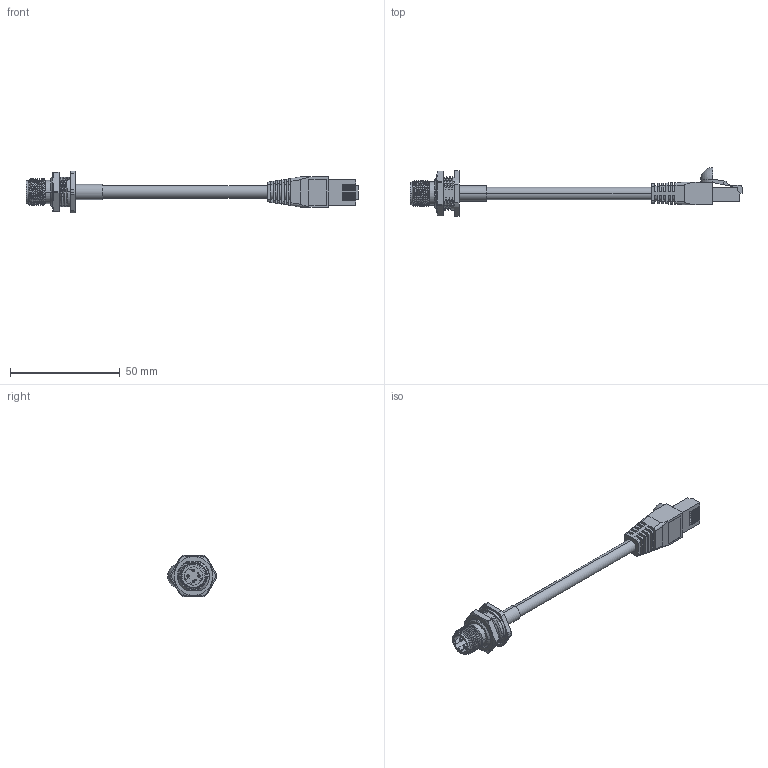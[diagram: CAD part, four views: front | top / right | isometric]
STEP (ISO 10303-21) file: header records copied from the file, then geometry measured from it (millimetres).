
FILE_DESCRIPTION (( 'STEP AP214' ), '1' );
FILE_NAME ('MDE45-4MR-RJ45-BM-ZZ.STEP', '2020-07-27T17:55:28', ( '' ), ( '' ), 'SwSTEP 2.0', 'SolidWorks 2018', '' );
FILE_SCHEMA (( 'AUTOMOTIVE_DESIGN' ));
Length unit declared in the file: millimetre
Products named in the file (2): MDE45-4MR-RJ45-BM-ZZ
Bounding box: 151.37 x 22.25 x 19.05 mm (x, y, z)
Volume: 9453.6 mm3; surface area: 8396.9 mm2
Topology: 1 solids, 3 shells, 426 faces, 1176 edges, 775 vertices
Faces by surface type: plane 228, cylinder 121, bspline 52, torus 12, cone 11, sphere 2
Entity records: 26100 total; most frequent: CARTESIAN_POINT 11252, ORIENTED_EDGE 2348, DIRECTION 1862, EDGE_CURVE 1174, VERTEX_POINT 774, LINE 728, VECTOR 728, AXIS2_PLACEMENT_3D 567
